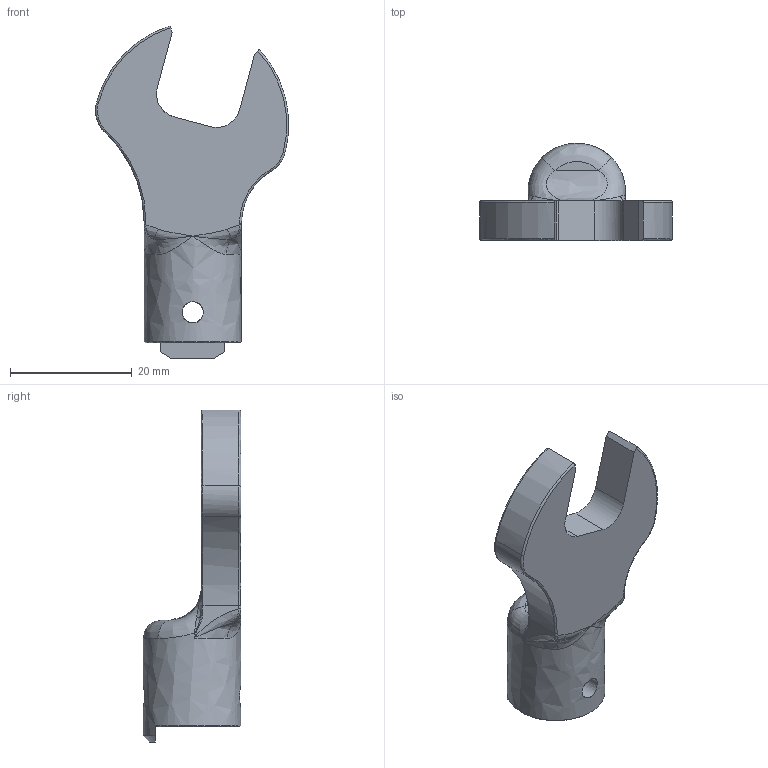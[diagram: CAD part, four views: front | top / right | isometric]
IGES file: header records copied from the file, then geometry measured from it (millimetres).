
Global section: file name: SH10DX14; native system: Autodesk Inventor 2016; preprocessor: unknown; author: Q600; date: 20151029.185501; units: millimetre
Bounding box: 31.67 x 16 x 54.5 mm (x, y, z)
Volume: 6387.6 mm3; surface area: 3758.4 mm2
Topology: 1 solids, 1 shells, 78 faces, 207 edges, 119 vertices
Faces by surface type: bspline 78
